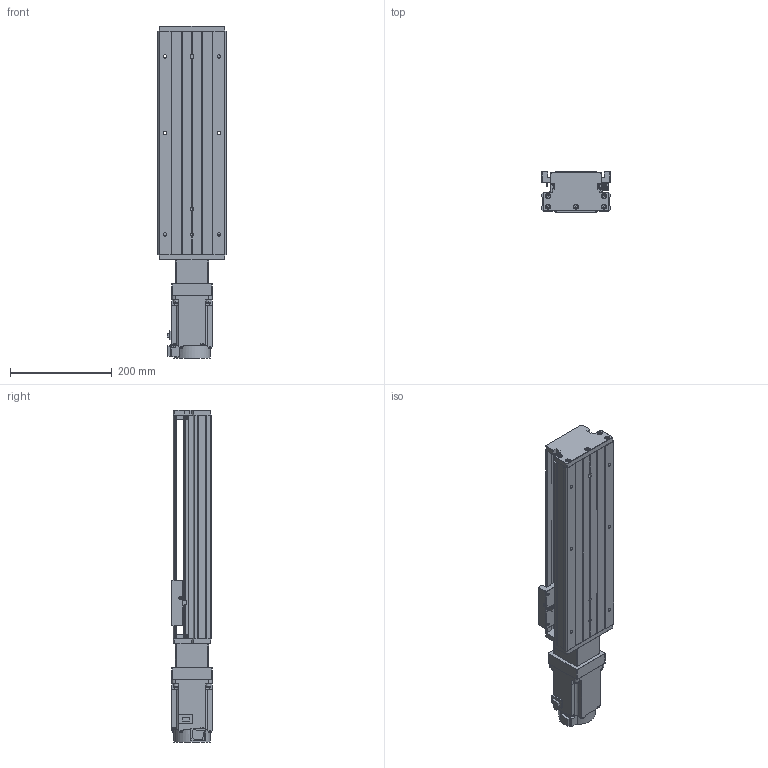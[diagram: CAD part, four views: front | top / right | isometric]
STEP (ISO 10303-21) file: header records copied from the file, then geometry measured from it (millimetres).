
FILE_DESCRIPTION (( 'STEP AP203' ), '1' );
FILE_NAME ('KTH130-300-BC-M75-C4.step', '2023-06-30T04:17:06', ( '微软用户' ), ( '微软中国' ), 'SwSTEP 2.0', 'SolidWorks 2020', '' );
FILE_SCHEMA (( 'CONFIG_CONTROL_DESIGN' ));
Length unit declared in the file: millimetre
Products named in the file (19): KTH130-002_KTH130-002; EE_SX911P_R; CTHA86-013; KTH130-004; CTHA60-016; CTHA86-027-1; KTH130-005; GBT 70.1-M3℅5; hg-kn73j_-s100; GB1155-6X6; GBT77-2000 M3×3; KTH130-300-BC-M75-C4; GBT70.1 M5℅16; す晦芛蹟隊 M3℅5; GBT 70.2-M3¡Á5_M3¡Á6; GBT 70.3-M3℅8; GTH14-001_300; CTHA60-017; CTHA86-006-1_M75
Assembly tree (52 placements, depth 2):
  KTH130-300-BC-M75-C4
    GTH14-001_300
    KTH130-002_KTH130-002
    KTH130-004
    KTH130-005
    GB1155-6X6  x2
    GBT70.1 M5℅16  x10
    GBT 70.2-M3¡Á5_M3¡Á6  x4
    CTHA60-017  x3
    EE_SX911P_R  x3
    CTHA60-016  x2
    GBT 70.1-M3℅5  x6
    GBT77-2000 M3×3  x6
    す晦芛蹟隊 M3℅5  x2
    GBT 70.3-M3℅8  x6
    CTHA86-006-1_M75
    CTHA86-013
    CTHA86-027-1
    hg-kn73j_-s100
Bounding box: 135 x 80.44 x 653.2 mm (x, y, z)
Volume: 3626095.2 mm3; surface area: 542023.7 mm2
Topology: 55 solids, 55 shells, 2240 faces, 5384 edges, 3351 vertices
Faces by surface type: plane 1238, cylinder 606, cone 280, torus 104, sphere 12
Entity records: 39538 total; most frequent: CARTESIAN_POINT 6531, DIRECTION 6491, ORIENTED_EDGE 6052, EDGE_CURVE 3026, AXIS2_PLACEMENT_3D 2247, LINE 1997, VECTOR 1997, VERTEX_POINT 1923
